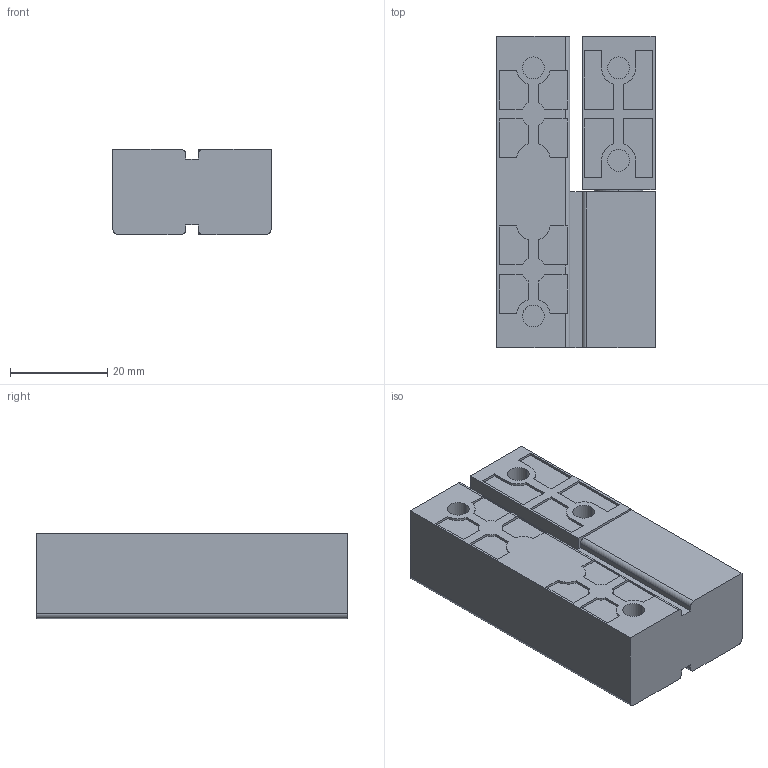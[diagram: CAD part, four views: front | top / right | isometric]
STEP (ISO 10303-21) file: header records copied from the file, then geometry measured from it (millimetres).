
FILE_DESCRIPTION (( 'STEP AP203' ), '1' );
FILE_NAME ('XG02-025-2.STEP', '2023-12-07T03:20:05', ( '' ), ( '' ), 'SwSTEP 2.0', 'SolidWorks 2020', '' );
FILE_SCHEMA (( 'CONFIG_CONTROL_DESIGN' ));
Length unit declared in the file: millimetre
Products named in the file (1): XG02-025-2
Bounding box: 32.5 x 64 x 17.5 mm (x, y, z)
Volume: 33601.7 mm3; surface area: 9677.8 mm2
Topology: 1 solids, 1 shells, 125 faces, 327 edges, 218 vertices
Faces by surface type: plane 88, cylinder 37
Entity records: 3920 total; most frequent: CARTESIAN_POINT 671, DIRECTION 661, ORIENTED_EDGE 654, EDGE_CURVE 327, LINE 245, VECTOR 245, VERTEX_POINT 218, AXIS2_PLACEMENT_3D 208
